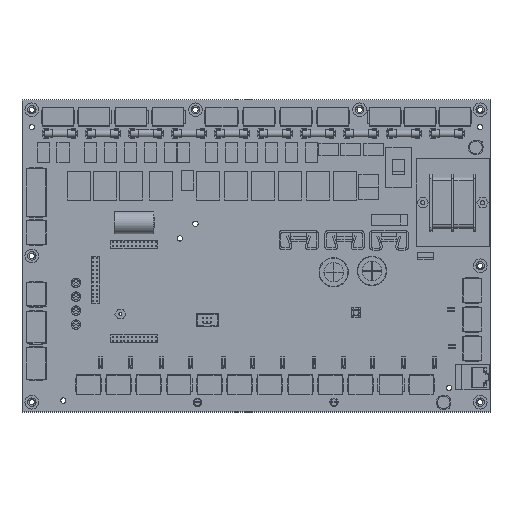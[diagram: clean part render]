
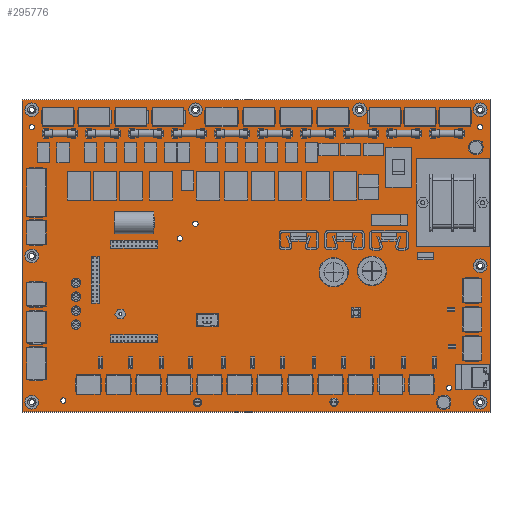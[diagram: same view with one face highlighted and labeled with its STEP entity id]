
A CAD part, top view. The second image highlights one B-rep face of the part: STEP entity #295776.
In plain terms, the highlighted planar face has unit normal (0, 0, 1).
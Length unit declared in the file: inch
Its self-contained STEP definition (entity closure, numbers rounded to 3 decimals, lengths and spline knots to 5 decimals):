
#295135=CARTESIAN_POINT('',(4.1175,4.45,0.0));
#295136=VERTEX_POINT('',#295135);
#295137=CARTESIAN_POINT('',(4.05,4.45,0.));
#295138=DIRECTION('',(0.0,0.0,-1.0));
#295139=DIRECTION('',(-1.0,0.0,0.0));
#295140=AXIS2_PLACEMENT_3D('',#295137,#295138,#295139);
#295141=CIRCLE('',#295140,0.0675);
#295142=EDGE_CURVE('',#295136,#295136,#295141,.T.);
#295163=CARTESIAN_POINT('',(4.5155,4.824,0.0));
#295164=VERTEX_POINT('',#295163);
#295165=CARTESIAN_POINT('',(4.448,4.824,0.));
#295166=DIRECTION('',(0.0,0.0,-1.0));
#295167=DIRECTION('',(-1.0,0.0,0.0));
#295168=AXIS2_PLACEMENT_3D('',#295165,#295166,#295167);
#295169=CIRCLE('',#295168,0.0675);
#295170=EDGE_CURVE('',#295164,#295164,#295169,.T.);
#295191=CARTESIAN_POINT('',(2.5905,2.507,0.0));
#295192=VERTEX_POINT('',#295191);
#295193=CARTESIAN_POINT('',(2.523,2.507,0.));
#295194=DIRECTION('',(0.0,0.0,-1.0));
#295195=DIRECTION('',(-1.0,0.0,0.0));
#295196=AXIS2_PLACEMENT_3D('',#295193,#295194,#295195);
#295197=CIRCLE('',#295196,0.0675);
#295198=EDGE_CURVE('',#295192,#295192,#295197,.T.);
#295219=CARTESIAN_POINT('',(11.0175,0.618,0.0));
#295220=VERTEX_POINT('',#295219);
#295221=CARTESIAN_POINT('',(10.95,0.618,0.));
#295222=DIRECTION('',(0.0,0.0,-1.0));
#295223=DIRECTION('',(-1.0,0.0,0.0));
#295224=AXIS2_PLACEMENT_3D('',#295221,#295222,#295223);
#295225=CIRCLE('',#295224,0.0675);
#295226=EDGE_CURVE('',#295220,#295220,#295225,.T.);
#295247=CARTESIAN_POINT('',(8.7245,7.75,0.0));
#295248=VERTEX_POINT('',#295247);
#295249=CARTESIAN_POINT('',(8.657,7.75,0.));
#295250=DIRECTION('',(0.0,0.0,-1.0));
#295251=DIRECTION('',(-1.0,0.0,0.0));
#295252=AXIS2_PLACEMENT_3D('',#295249,#295250,#295251);
#295253=CIRCLE('',#295252,0.0675);
#295254=EDGE_CURVE('',#295248,#295248,#295253,.T.);
#295275=CARTESIAN_POINT('',(11.8165,7.302,0.0));
#295276=VERTEX_POINT('',#295275);
#295277=CARTESIAN_POINT('',(11.749,7.302,0.));
#295278=DIRECTION('',(0.0,0.0,-1.0));
#295279=DIRECTION('',(-1.0,0.0,0.0));
#295280=AXIS2_PLACEMENT_3D('',#295277,#295278,#295279);
#295281=CIRCLE('',#295280,0.0675);
#295282=EDGE_CURVE('',#295276,#295276,#295281,.T.);
#295303=CARTESIAN_POINT('',(11.8175,0.25,0.0));
#295304=VERTEX_POINT('',#295303);
#295305=CARTESIAN_POINT('',(11.75,0.25,0.));
#295306=DIRECTION('',(0.0,0.0,-1.0));
#295307=DIRECTION('',(-1.0,0.0,0.0));
#295308=AXIS2_PLACEMENT_3D('',#295305,#295306,#295307);
#295309=CIRCLE('',#295308,0.0675);
#295310=EDGE_CURVE('',#295304,#295304,#295309,.T.);
#295331=CARTESIAN_POINT('',(4.5675,0.25,0.0));
#295332=VERTEX_POINT('',#295331);
#295333=CARTESIAN_POINT('',(4.5,0.25,0.));
#295334=DIRECTION('',(0.0,0.0,-1.0));
#295335=DIRECTION('',(-1.0,0.0,0.0));
#295336=AXIS2_PLACEMENT_3D('',#295333,#295334,#295335);
#295337=CIRCLE('',#295336,0.0675);
#295338=EDGE_CURVE('',#295332,#295332,#295337,.T.);
#295359=CARTESIAN_POINT('',(0.3175,0.25,0.0));
#295360=VERTEX_POINT('',#295359);
#295361=CARTESIAN_POINT('',(0.25,0.25,0.));
#295362=DIRECTION('',(0.0,0.0,-1.0));
#295363=DIRECTION('',(-1.0,0.0,0.0));
#295364=AXIS2_PLACEMENT_3D('',#295361,#295362,#295363);
#295365=CIRCLE('',#295364,0.0675);
#295366=EDGE_CURVE('',#295360,#295360,#295365,.T.);
#295387=CARTESIAN_POINT('',(0.3175,7.3,0.0));
#295388=VERTEX_POINT('',#295387);
#295389=CARTESIAN_POINT('',(0.25,7.3,0.));
#295390=DIRECTION('',(0.0,0.0,-1.0));
#295391=DIRECTION('',(-1.0,0.0,0.0));
#295392=AXIS2_PLACEMENT_3D('',#295389,#295390,#295391);
#295393=CIRCLE('',#295392,0.0675);
#295394=EDGE_CURVE('',#295388,#295388,#295393,.T.);
#295415=CARTESIAN_POINT('',(0.3175,7.75,0.0));
#295416=VERTEX_POINT('',#295415);
#295417=CARTESIAN_POINT('',(0.25,7.75,0.));
#295418=DIRECTION('',(0.0,0.0,-1.0));
#295419=DIRECTION('',(-1.0,0.0,0.0));
#295420=AXIS2_PLACEMENT_3D('',#295417,#295418,#295419);
#295421=CIRCLE('',#295420,0.0675);
#295422=EDGE_CURVE('',#295416,#295416,#295421,.T.);
#295443=CARTESIAN_POINT('',(0.3175,4.0,0.0));
#295444=VERTEX_POINT('',#295443);
#295445=CARTESIAN_POINT('',(0.25,4.,0.0));
#295446=DIRECTION('',(0.0,0.0,-1.0));
#295447=DIRECTION('',(-1.0,0.0,0.0));
#295448=AXIS2_PLACEMENT_3D('',#295445,#295446,#295447);
#295449=CIRCLE('',#295448,0.0675);
#295450=EDGE_CURVE('',#295444,#295444,#295449,.T.);
#295471=CARTESIAN_POINT('',(1.1265,0.294,0.0));
#295472=VERTEX_POINT('',#295471);
#295473=CARTESIAN_POINT('',(1.059,0.294,0.));
#295474=DIRECTION('',(0.0,0.0,-1.0));
#295475=DIRECTION('',(-1.0,0.0,0.0));
#295476=AXIS2_PLACEMENT_3D('',#295473,#295474,#295475);
#295477=CIRCLE('',#295476,0.0675);
#295478=EDGE_CURVE('',#295472,#295472,#295477,.T.);
#295499=CARTESIAN_POINT('',(8.0675,0.25,0.0));
#295500=VERTEX_POINT('',#295499);
#295501=CARTESIAN_POINT('',(8.,0.25,0.));
#295502=DIRECTION('',(0.0,0.0,-1.0));
#295503=DIRECTION('',(-1.0,0.0,0.0));
#295504=AXIS2_PLACEMENT_3D('',#295501,#295502,#295503);
#295505=CIRCLE('',#295504,0.0675);
#295506=EDGE_CURVE('',#295500,#295500,#295505,.T.);
#295527=CARTESIAN_POINT('',(11.8175,3.75,0.0));
#295528=VERTEX_POINT('',#295527);
#295529=CARTESIAN_POINT('',(11.75,3.75,0.));
#295530=DIRECTION('',(0.0,0.0,-1.0));
#295531=DIRECTION('',(-1.0,0.0,0.0));
#295532=AXIS2_PLACEMENT_3D('',#295529,#295530,#295531);
#295533=CIRCLE('',#295532,0.0675);
#295534=EDGE_CURVE('',#295528,#295528,#295533,.T.);
#295555=CARTESIAN_POINT('',(11.8175,7.75,0.0));
#295556=VERTEX_POINT('',#295555);
#295557=CARTESIAN_POINT('',(11.75,7.75,0.));
#295558=DIRECTION('',(0.0,0.0,-1.0));
#295559=DIRECTION('',(-1.0,0.,0.0));
#295560=AXIS2_PLACEMENT_3D('',#295557,#295558,#295559);
#295561=CIRCLE('',#295560,0.0675);
#295562=EDGE_CURVE('',#295556,#295556,#295561,.T.);
#295583=CARTESIAN_POINT('',(4.5155,7.75,0.0));
#295584=VERTEX_POINT('',#295583);
#295585=CARTESIAN_POINT('',(4.448,7.75,0.));
#295586=DIRECTION('',(0.0,0.0,-1.0));
#295587=DIRECTION('',(-1.0,0.,0.0));
#295588=AXIS2_PLACEMENT_3D('',#295585,#295586,#295587);
#295589=CIRCLE('',#295588,0.0675);
#295590=EDGE_CURVE('',#295584,#295584,#295589,.T.);
#295686=CARTESIAN_POINT('',(6.0,8.,0.0));
#295687=DIRECTION('',(0.0,0.0,1.0));
#295688=DIRECTION('',(1.0,0.0,0.0));
#295689=AXIS2_PLACEMENT_3D('',#295686,#295687,#295688);
#295690=PLANE('',#295689);
#295691=CARTESIAN_POINT('',(12.0,0.0,0.0));
#295692=VERTEX_POINT('',#295691);
#295693=CARTESIAN_POINT('',(12.0,8.,0.0));
#295694=VERTEX_POINT('',#295693);
#295695=CARTESIAN_POINT('',(12.0,0.0,0.0));
#295696=DIRECTION('',(0.0,1.0,0.0));
#295697=VECTOR('',#295696,8.);
#295698=LINE('',#295695,#295697);
#295699=EDGE_CURVE('',#295692,#295694,#295698,.T.);
#295700=ORIENTED_EDGE('',*,*,#295699,.T.);
#295701=CARTESIAN_POINT('',(0.0,8.,0.0));
#295702=VERTEX_POINT('',#295701);
#295703=CARTESIAN_POINT('',(12.0,8.,0.0));
#295704=DIRECTION('',(-1.0,0.0,0.0));
#295705=VECTOR('',#295704,12.0);
#295706=LINE('',#295703,#295705);
#295707=EDGE_CURVE('',#295694,#295702,#295706,.T.);
#295708=ORIENTED_EDGE('',*,*,#295707,.T.);
#295709=CARTESIAN_POINT('',(0.0,0.0,0.0));
#295710=VERTEX_POINT('',#295709);
#295711=CARTESIAN_POINT('',(0.0,8.,0.0));
#295712=DIRECTION('',(0.0,-1.0,0.0));
#295713=VECTOR('',#295712,8.);
#295714=LINE('',#295711,#295713);
#295715=EDGE_CURVE('',#295702,#295710,#295714,.T.);
#295716=ORIENTED_EDGE('',*,*,#295715,.T.);
#295717=CARTESIAN_POINT('',(0.0,0.0,0.0));
#295718=DIRECTION('',(1.0,0.0,0.0));
#295719=VECTOR('',#295718,12.0);
#295720=LINE('',#295717,#295719);
#295721=EDGE_CURVE('',#295710,#295692,#295720,.T.);
#295722=ORIENTED_EDGE('',*,*,#295721,.T.);
#295723=EDGE_LOOP('',(#295700,#295708,#295716,#295722));
#295724=FACE_OUTER_BOUND('',#295723,.T.);
#295725=ORIENTED_EDGE('',*,*,#295142,.T.);
#295726=EDGE_LOOP('',(#295725));
#295727=FACE_BOUND('',#295726,.T.);
#295728=ORIENTED_EDGE('',*,*,#295170,.T.);
#295729=EDGE_LOOP('',(#295728));
#295730=FACE_BOUND('',#295729,.T.);
#295731=ORIENTED_EDGE('',*,*,#295198,.T.);
#295732=EDGE_LOOP('',(#295731));
#295733=FACE_BOUND('',#295732,.T.);
#295734=ORIENTED_EDGE('',*,*,#295226,.T.);
#295735=EDGE_LOOP('',(#295734));
#295736=FACE_BOUND('',#295735,.T.);
#295737=ORIENTED_EDGE('',*,*,#295254,.T.);
#295738=EDGE_LOOP('',(#295737));
#295739=FACE_BOUND('',#295738,.T.);
#295740=ORIENTED_EDGE('',*,*,#295282,.T.);
#295741=EDGE_LOOP('',(#295740));
#295742=FACE_BOUND('',#295741,.T.);
#295743=ORIENTED_EDGE('',*,*,#295310,.T.);
#295744=EDGE_LOOP('',(#295743));
#295745=FACE_BOUND('',#295744,.T.);
#295746=ORIENTED_EDGE('',*,*,#295338,.T.);
#295747=EDGE_LOOP('',(#295746));
#295748=FACE_BOUND('',#295747,.T.);
#295749=ORIENTED_EDGE('',*,*,#295366,.T.);
#295750=EDGE_LOOP('',(#295749));
#295751=FACE_BOUND('',#295750,.T.);
#295752=ORIENTED_EDGE('',*,*,#295394,.T.);
#295753=EDGE_LOOP('',(#295752));
#295754=FACE_BOUND('',#295753,.T.);
#295755=ORIENTED_EDGE('',*,*,#295422,.T.);
#295756=EDGE_LOOP('',(#295755));
#295757=FACE_BOUND('',#295756,.T.);
#295758=ORIENTED_EDGE('',*,*,#295450,.T.);
#295759=EDGE_LOOP('',(#295758));
#295760=FACE_BOUND('',#295759,.T.);
#295761=ORIENTED_EDGE('',*,*,#295478,.T.);
#295762=EDGE_LOOP('',(#295761));
#295763=FACE_BOUND('',#295762,.T.);
#295764=ORIENTED_EDGE('',*,*,#295506,.T.);
#295765=EDGE_LOOP('',(#295764));
#295766=FACE_BOUND('',#295765,.T.);
#295767=ORIENTED_EDGE('',*,*,#295534,.T.);
#295768=EDGE_LOOP('',(#295767));
#295769=FACE_BOUND('',#295768,.T.);
#295770=ORIENTED_EDGE('',*,*,#295562,.T.);
#295771=EDGE_LOOP('',(#295770));
#295772=FACE_BOUND('',#295771,.T.);
#295773=ORIENTED_EDGE('',*,*,#295590,.T.);
#295774=EDGE_LOOP('',(#295773));
#295775=FACE_BOUND('',#295774,.T.);
#295776=ADVANCED_FACE('',(#295724,#295727,#295730,#295733,#295736,#295739,#295742,#295745,#295748,#295751,#295754,#295757,#295760,#295763,#295766,#295769,#295772,#295775),#295690,.T.);
